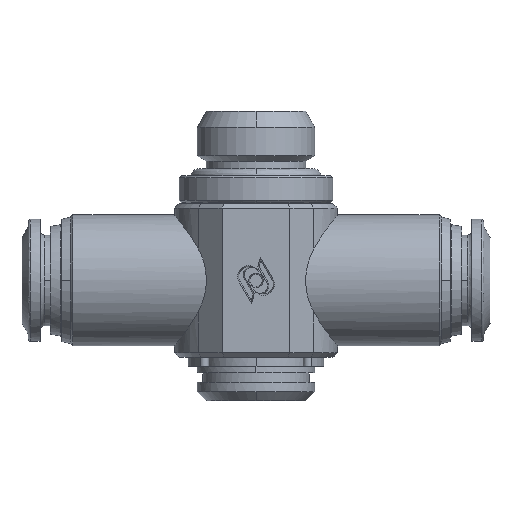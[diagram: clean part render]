
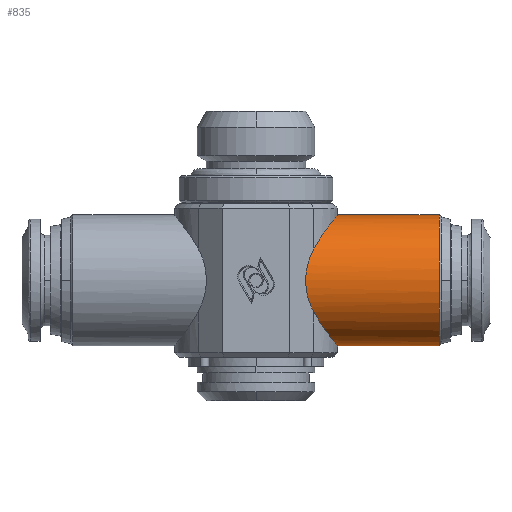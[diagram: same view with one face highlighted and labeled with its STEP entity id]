
A CAD part, front view. The second image highlights one B-rep face of the part: STEP entity #835.
In plain terms, the highlighted cylindrical face has radius 7.25 mm (diameter 14.5 mm), a partial arc.
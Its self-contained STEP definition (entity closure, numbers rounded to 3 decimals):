
#85 = ORIENTED_EDGE ( 'NONE', *, *, #7224, .F. ) ;
#330 = CARTESIAN_POINT ( 'NONE',  ( 6.386, -6.364, 12.973 ) ) ;
#616 = EDGE_CURVE ( 'NONE', #1290, #7779, #2821, .T. ) ;
#664 = CARTESIAN_POINT ( 'NONE',  ( 6.386, -6.364, 12.973 ) ) ;
#835 = ADVANCED_FACE ( 'NONE', ( #7691 ), #9467, .T. ) ;
#1070 = CARTESIAN_POINT ( 'NONE',  ( 5.178, -7.572, 10.76 ) ) ;
#1174 = CARTESIAN_POINT ( 'NONE',  ( 20.268, 0., 2.25 ) ) ;
#1290 = VERTEX_POINT ( 'NONE', #9681 ) ;
#1522 = CARTESIAN_POINT ( 'NONE',  ( 9.022, 0., 16.75 ) ) ;
#2128 = CARTESIAN_POINT ( 'NONE',  ( 7.161, -5.486, 14.249 ) ) ;
#2167 = CARTESIAN_POINT ( 'NONE',  ( 7.62, -4.852, 14.922 ) ) ;
#2427 = ORIENTED_EDGE ( 'NONE', *, *, #4243, .T. ) ;
#2572 = VERTEX_POINT ( 'NONE', #1522 ) ;
#2821 = CIRCLE ( 'NONE', #3241, 7.25 ) ;
#2868 = CARTESIAN_POINT ( 'NONE',  ( 7.911, -4.373, 15.318 ) ) ;
#2895 = CARTESIAN_POINT ( 'NONE',  ( 8.427, -3.275, 16. ) ) ;
#2923 = EDGE_LOOP ( 'NONE', ( #85, #3467, #3293, #4961, #5981, #2427 ) ) ;
#3241 = AXIS2_PLACEMENT_3D ( 'NONE', #8840, #7550, #7695 ) ;
#3275 = CARTESIAN_POINT ( 'NONE',  ( 9.022, 0., 2.25 ) ) ;
#3290 = EDGE_CURVE ( 'NONE', #2572, #6473, #4975, .T. ) ;
#3293 = ORIENTED_EDGE ( 'NONE', *, *, #6528, .T. ) ;
#3306 = CARTESIAN_POINT ( 'NONE',  ( 6.386, -6.364, 6.027 ) ) ;
#3309 = CARTESIAN_POINT ( 'NONE',  ( 9.022, -0.349, 2.25 ) ) ;
#3356 = CARTESIAN_POINT ( 'NONE',  ( 9.002, -0.698, 2.275 ) ) ;
#3389 = CARTESIAN_POINT ( 'NONE',  ( 8.922, -1.38, 2.374 ) ) ;
#3425 = CARTESIAN_POINT ( 'NONE',  ( 8.864, -1.712, 2.447 ) ) ;
#3453 = CARTESIAN_POINT ( 'NONE',  ( 8.714, -2.356, 2.635 ) ) ;
#3467 = ORIENTED_EDGE ( 'NONE', *, *, #616, .F. ) ;
#3486 = CARTESIAN_POINT ( 'NONE',  ( 8.622, -2.672, 2.752 ) ) ;
#3527 = CARTESIAN_POINT ( 'NONE',  ( 8.411, -3.274, 3.023 ) ) ;
#3567 = CARTESIAN_POINT ( 'NONE',  ( 8.294, -3.559, 3.176 ) ) ;
#3591 = CARTESIAN_POINT ( 'NONE',  ( 8.039, -4.101, 3.513 ) ) ;
#3627 = CARTESIAN_POINT ( 'NONE',  ( 7.902, -4.358, 3.697 ) ) ;
#3648 = CARTESIAN_POINT ( 'NONE',  ( 6.536, -6.214, 13.248 ) ) ;
#3669 = CARTESIAN_POINT ( 'NONE',  ( 7.612, -4.845, 4.097 ) ) ;
#3706 = CARTESIAN_POINT ( 'NONE',  ( 7.461, -5.072, 4.311 ) ) ;
#3731 = CARTESIAN_POINT ( 'NONE',  ( 7.003, -5.705, 4.984 ) ) ;
#3807 = CARTESIAN_POINT ( 'NONE',  ( 6.386, -6.364, 6.027 ) ) ;
#3834 = CARTESIAN_POINT ( 'NONE',  ( 6.686, -6.064, 5.476 ) ) ;
#3973 =( BOUNDED_CURVE ( )  B_SPLINE_CURVE ( 3, ( #330, #1070, #7856, #3306 ),
 .UNSPECIFIED., .F., .F. ) 
 B_SPLINE_CURVE_WITH_KNOTS ( ( 4, 4 ),
 ( 5.784, 6.783 ),
 .UNSPECIFIED. ) 
 CURVE ( )  GEOMETRIC_REPRESENTATION_ITEM ( )  RATIONAL_B_SPLINE_CURVE ( ( 1., 0.919, 0.919, 1. ) ) 
 REPRESENTATION_ITEM ( '' )  );
#4021 = VERTEX_POINT ( 'NONE', #7872 ) ;
#4171 = DIRECTION ( 'NONE',  ( -1., 0., 0. ) ) ;
#4243 = EDGE_CURVE ( 'NONE', #5465, #4021, #9683, .T. ) ;
#4411 = CARTESIAN_POINT ( 'NONE',  ( 6.691, -6.048, 13.51 ) ) ;
#4722 = VECTOR ( 'NONE', #4171, 1000. ) ;
#4961 = ORIENTED_EDGE ( 'NONE', *, *, #3290, .T. ) ;
#4975 = B_SPLINE_CURVE_WITH_KNOTS ( 'NONE', 3,
 ( #8939, #8974, #5897, #5130, #2895, #2868, #2167, #2128, #6660, #4411, #3648, #664 ),
 .UNSPECIFIED., .F., .F.,
 ( 4, 2, 2, 2, 2, 4 ),
 ( 0., 0.002, 0.004, 0.006, 0.007, 0.008 ),
 .UNSPECIFIED. ) ;
#5130 = CARTESIAN_POINT ( 'NONE',  ( 8.64, -2.679, 16.271 ) ) ;
#5431 = LINE ( 'NONE', #5654, #4722 ) ;
#5465 = VERTEX_POINT ( 'NONE', #5642 ) ;
#5642 = CARTESIAN_POINT ( 'NONE',  ( 6.386, -6.364, 6.027 ) ) ;
#5654 = CARTESIAN_POINT ( 'NONE',  ( 20.268, 0., 2.25 ) ) ;
#5662 = LINE ( 'NONE', #8134, #9487 ) ;
#5897 = CARTESIAN_POINT ( 'NONE',  ( 8.942, -1.372, 16.651 ) ) ;
#5981 = ORIENTED_EDGE ( 'NONE', *, *, #8206, .T. ) ;
#6059 = DIRECTION ( 'NONE',  ( -1., 0., 0. ) ) ;
#6115 = CARTESIAN_POINT ( 'NONE',  ( 20.268, 0., 9.5 ) ) ;
#6180 = DIRECTION ( 'NONE',  ( 0., 0., 1. ) ) ;
#6473 = VERTEX_POINT ( 'NONE', #6916 ) ;
#6528 = EDGE_CURVE ( 'NONE', #1290, #2572, #5662, .T. ) ;
#6660 = CARTESIAN_POINT ( 'NONE',  ( 7.004, -5.684, 14.011 ) ) ;
#6916 = CARTESIAN_POINT ( 'NONE',  ( 6.386, -6.364, 12.973 ) ) ;
#7224 = EDGE_CURVE ( 'NONE', #7779, #4021, #5431, .T. ) ;
#7550 = DIRECTION ( 'NONE',  ( 1., 0., 0. ) ) ;
#7691 = FACE_OUTER_BOUND ( 'NONE', #2923, .T. ) ;
#7695 = DIRECTION ( 'NONE',  ( 0., 0., 1. ) ) ;
#7779 = VERTEX_POINT ( 'NONE', #1174 ) ;
#7856 = CARTESIAN_POINT ( 'NONE',  ( 5.178, -7.572, 8.24 ) ) ;
#7872 = CARTESIAN_POINT ( 'NONE',  ( 9.022, 0., 2.25 ) ) ;
#8023 = DIRECTION ( 'NONE',  ( -1., 0., 0. ) ) ;
#8134 = CARTESIAN_POINT ( 'NONE',  ( 20.268, 0., 16.75 ) ) ;
#8206 = EDGE_CURVE ( 'NONE', #6473, #5465, #3973, .T. ) ;
#8840 = CARTESIAN_POINT ( 'NONE',  ( 20.268, 0., 9.5 ) ) ;
#8939 = CARTESIAN_POINT ( 'NONE',  ( 9.022, 0., 16.75 ) ) ;
#8974 = CARTESIAN_POINT ( 'NONE',  ( 9.022, -0.698, 16.75 ) ) ;
#9352 = AXIS2_PLACEMENT_3D ( 'NONE', #6115, #6059, #6180 ) ;
#9467 = CYLINDRICAL_SURFACE ( 'NONE', #9352, 7.25 ) ;
#9487 = VECTOR ( 'NONE', #8023, 1000. ) ;
#9681 = CARTESIAN_POINT ( 'NONE',  ( 20.268, 0., 16.75 ) ) ;
#9683 = B_SPLINE_CURVE_WITH_KNOTS ( 'NONE', 3,
 ( #3807, #3834, #3731, #3706, #3669, #3627, #3591, #3567, #3527, #3486, #3453, #3425, #3389, #3356, #3309, #3275 ),
 .UNSPECIFIED., .F., .F.,
 ( 4, 2, 2, 2, 2, 2, 2, 4 ),
 ( -0.008, -0.006, -0.005, -0.004, -0.003, -0.002, -0.001, 0. ),
 .UNSPECIFIED. ) ;
